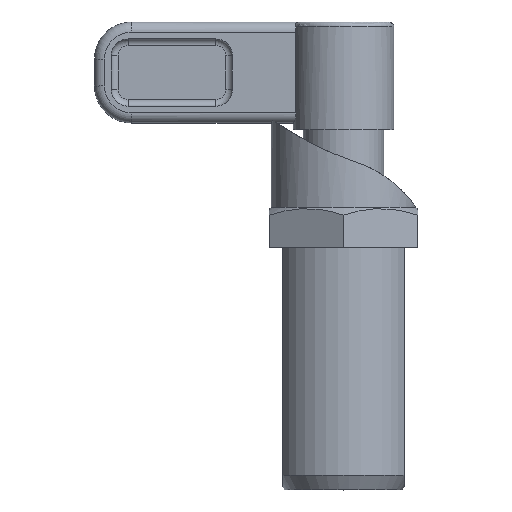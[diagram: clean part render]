
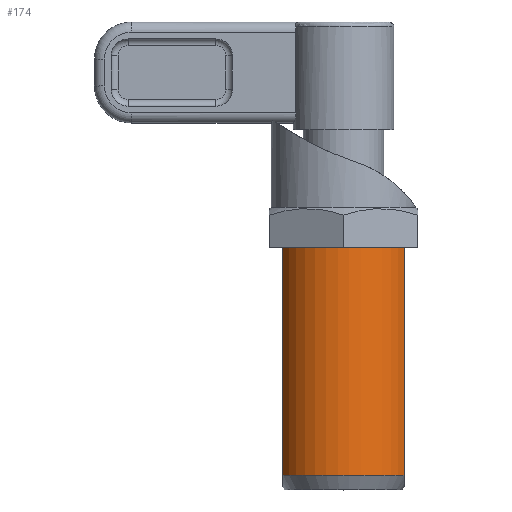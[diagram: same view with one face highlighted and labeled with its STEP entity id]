
A CAD part, top view. The second image highlights one B-rep face of the part: STEP entity #174.
In plain terms, the highlighted cylindrical face has radius 10 mm (diameter 20 mm), a partial arc.
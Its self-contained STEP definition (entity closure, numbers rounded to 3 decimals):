
#174 = ADVANCED_FACE( '', ( #254 ), #255, .T. );
#254 = FACE_OUTER_BOUND( '', #421, .T. );
#255 = CYLINDRICAL_SURFACE( '', #422, 10. );
#421 = EDGE_LOOP( '', ( #613, #614, #615, #616 ) );
#422 = AXIS2_PLACEMENT_3D( '', #617, #618, #619 );
#613 = ORIENTED_EDGE( '', *, *, #1110, .F. );
#614 = ORIENTED_EDGE( '', *, *, #1111, .T. );
#615 = ORIENTED_EDGE( '', *, *, #1112, .F. );
#616 = ORIENTED_EDGE( '', *, *, #1113, .T. );
#617 = CARTESIAN_POINT( '', ( 0., 0., 0. ) );
#618 = DIRECTION( '', ( 0., 1., 0. ) );
#619 = DIRECTION( '', ( 0., 0., -1. ) );
#1110 = EDGE_CURVE( '', #1272, #1273, #1274, .T. );
#1111 = EDGE_CURVE( '', #1272, #1275, #1276, .F. );
#1112 = EDGE_CURVE( '', #1277, #1275, #1278, .T. );
#1113 = EDGE_CURVE( '', #1277, #1273, #1279, .T. );
#1272 = VERTEX_POINT( '', #1792 );
#1273 = VERTEX_POINT( '', #1793 );
#1274 = CIRCLE( '', #1794, 10. );
#1275 = VERTEX_POINT( '', #1795 );
#1276 = LINE( '', #1796, #1797 );
#1277 = VERTEX_POINT( '', #1798 );
#1278 = CIRCLE( '', #1799, 10. );
#1279 = LINE( '', #1800, #1801 );
#1792 = CARTESIAN_POINT( '', ( 9., 2.17, 4.359 ) );
#1793 = CARTESIAN_POINT( '', ( -9., 2.17, 4.359 ) );
#1794 = AXIS2_PLACEMENT_3D( '', #2225, #2226, #2227 );
#1795 = CARTESIAN_POINT( '', ( 9., 36., 4.359 ) );
#1796 = CARTESIAN_POINT( '', ( 9., 0., 4.359 ) );
#1797 = VECTOR( '', #2228, 1000. );
#1798 = CARTESIAN_POINT( '', ( -9., 36., 4.359 ) );
#1799 = AXIS2_PLACEMENT_3D( '', #2229, #2230, #2231 );
#1800 = CARTESIAN_POINT( '', ( -9., 0., 4.359 ) );
#1801 = VECTOR( '', #2232, 1000. );
#2225 = CARTESIAN_POINT( '', ( 0., 2.17, 0. ) );
#2226 = DIRECTION( '', ( 0., -1., 0. ) );
#2227 = DIRECTION( '', ( 0., 0., -1. ) );
#2228 = DIRECTION( '', ( 0., -1., 0. ) );
#2229 = CARTESIAN_POINT( '', ( 0., 36., 0. ) );
#2230 = DIRECTION( '', ( 0., 1., 0. ) );
#2231 = DIRECTION( '', ( 0., 0., 1. ) );
#2232 = DIRECTION( '', ( 0., -1., 0. ) );
